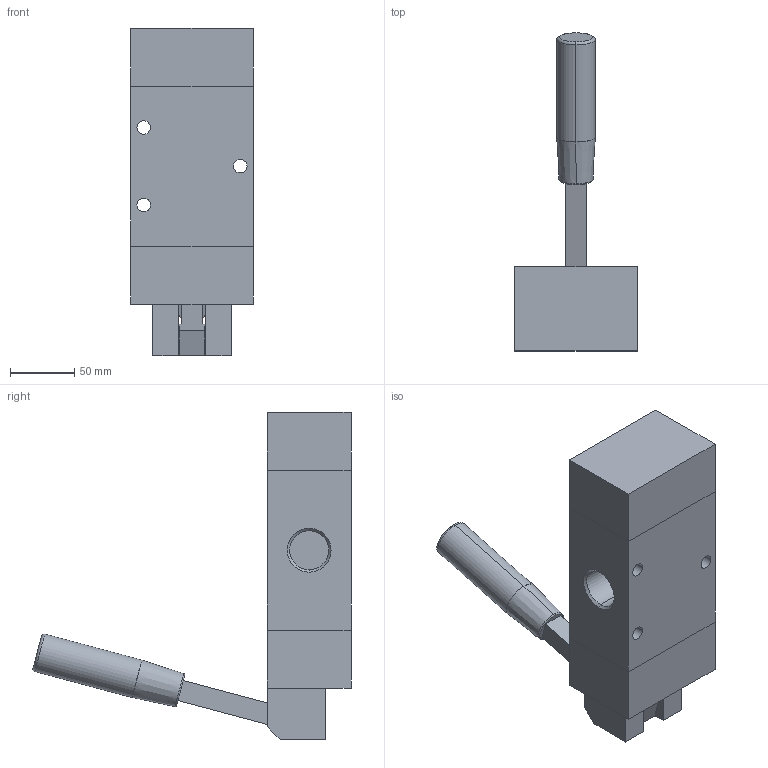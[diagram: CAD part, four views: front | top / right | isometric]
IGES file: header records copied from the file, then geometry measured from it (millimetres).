
Global section: file name: No Iges File Name specified; native system: AutoDesk Inventor R11.0; preprocessor: AutoDesk Inventor Iges Exporter R11.0; author: No Author specified; organization: No Organization specified; date: 20061219.113213; units: millimetre
Bounding box: 95 x 246.85 x 254 mm (x, y, z)
Volume: 1429716.6 mm3; surface area: 123466.8 mm2
Topology: 2 solids, 2 shells, 79 faces, 178 edges, 114 vertices
Faces by surface type: plane 42, bspline 15, revolution 12, torus 6, cone 2, cylinder 2
